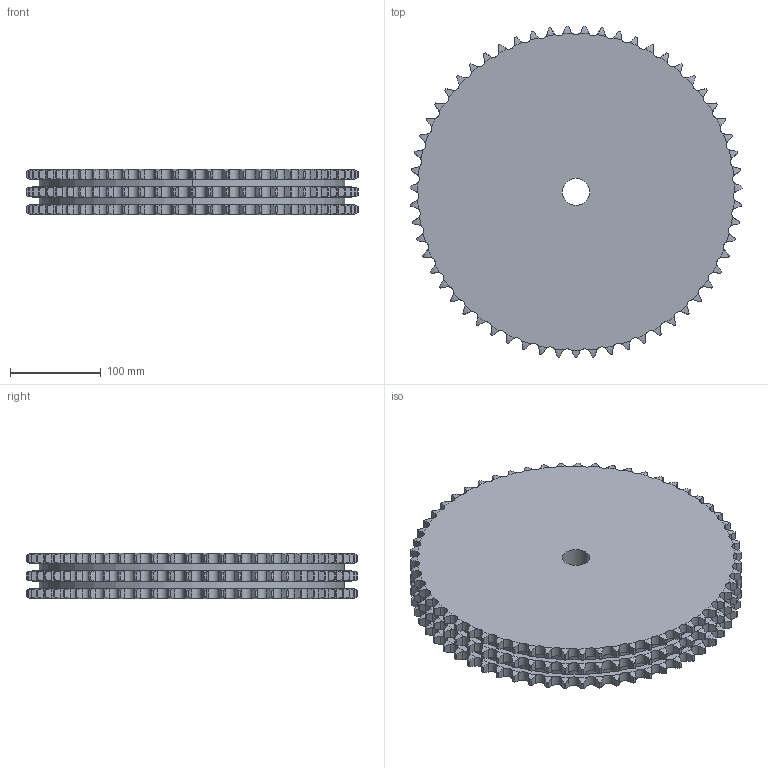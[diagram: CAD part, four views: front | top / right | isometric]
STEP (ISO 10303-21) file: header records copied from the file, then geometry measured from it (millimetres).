
FILE_DESCRIPTION((''),'2;1');
FILE_NAME('500-403-0059_PRT','2021-02-12T',('Brieden'),('Brieden'),'PRO/ENGINEER BY PARAMETRIC TECHNOLOGY CORPORATION, 2010160','PRO/ENGINEER BY PARAMETRIC TECHNOLOGY CORPORATION, 2010160','');
FILE_SCHEMA(('AUTOMOTIVE_DESIGN { 1 0 10303 214 1 1 1 1 }'));
Length unit declared in the file: millimetre
Products named in the file (1): 500-403-0059_PRT
Bounding box: 365.35 x 365.22 x 49.8 mm (x, y, z)
Volume: 4683406.9 mm3; surface area: 307477.7 mm2
Topology: 1 solids, 1 shells, 1074 faces, 3204 edges, 2136 vertices
Faces by surface type: cylinder 714, torus 354, plane 6
Entity records: 53098 total; most frequent: CARTESIAN_POINT 16279, ORIENTED_EDGE 6408, DIRECTION 5010, PRESENTATION_STYLE_ASSIGNMENT 3205, STYLED_ITEM 3205, CURVE_STYLE 3204, EDGE_CURVE 3204, AXIS2_PLACEMENT_3D 2148
